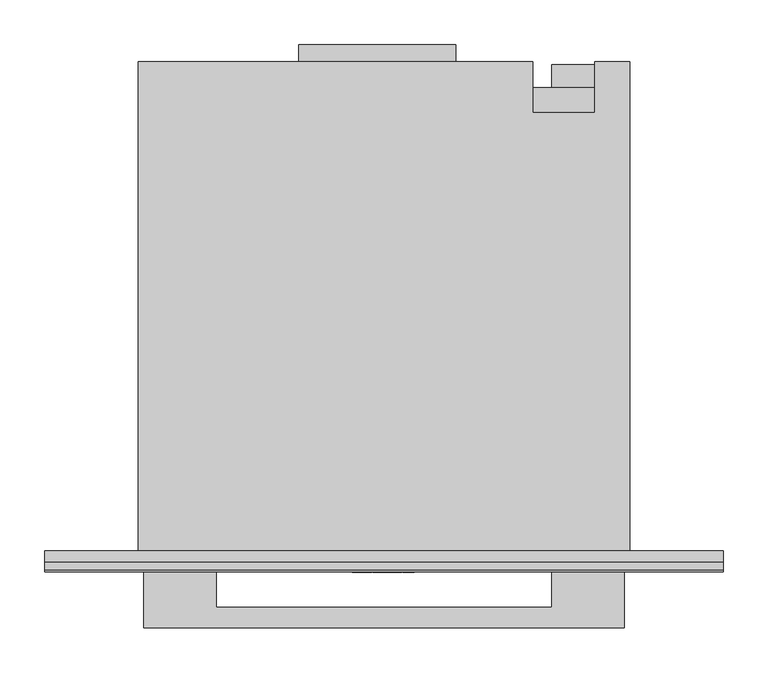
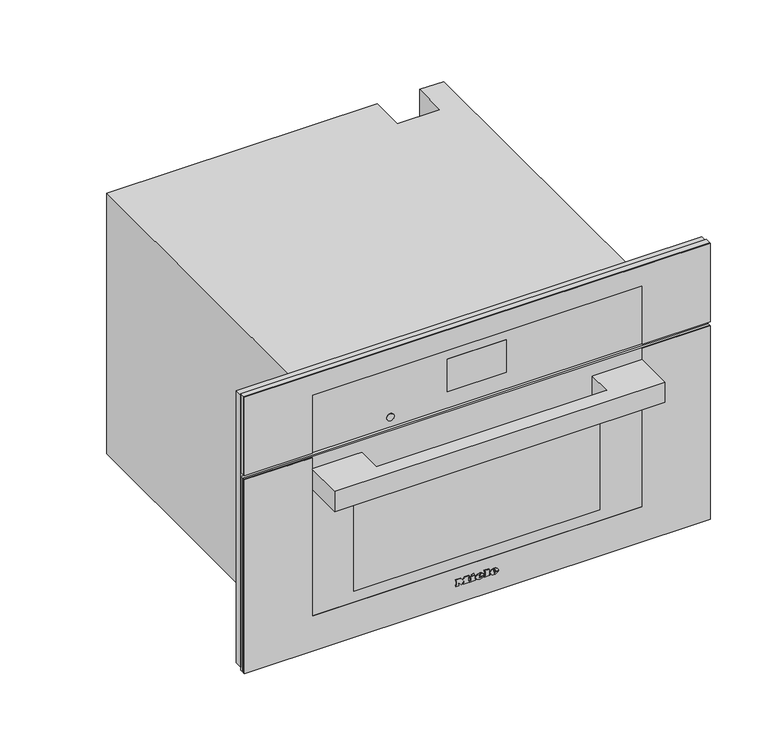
"""IFC4 building model written with IfcOpenShell, lengths in millimetres: proxy geometry, 11875790_USA_DGC7570_EDST-CLST : 23757042_USA_11875790_DGC7570_EDST-CLST."""

import ifcopenshell
import ifcopenshell.guid

model = None  # the IFC model being written
_history = None  # IfcOwnerHistory: only IFC2X3 demands one
_inside = {}  # id of a spatial element -> (the spatial element, [elements in it])
_under = {}  # id of a project, library or spatial element -> (it, [spatial elements below it])
_declared = {}  # id of a project -> (the project, [libraries it declares])
_typed = {}  # id of a type object -> (the type object, [elements of that type])
_made_of = {}  # id of a material, layer set ... -> (it, [elements and type objects made of it])


def new_model(schema):
    """Start an empty IFC model of exactly this schema.

    Asked for "IFC4X3", IfcOpenShell would pick the latest addendum, in which some entities
    have other attributes; the version numbers below select the first issue.
    IFC2X3 requires an IfcOwnerHistory on every rooted entity: one is made here for all.
    """
    global model, _history
    if schema == "IFC4X3":
        model = ifcopenshell.file(schema_version=(4, 3, 0, 0))
    else:
        model = ifcopenshell.file(schema=schema)
    _inside.clear()
    _under.clear()
    _declared.clear()
    _typed.clear()
    _made_of.clear()
    _history = None
    if model.schema == "IFC2X3":
        org = make("IfcOrganization", Name="unknown")
        user = make(
            "IfcPersonAndOrganization",
            ThePerson=make("IfcPerson", FamilyName="unknown"),
            TheOrganization=org,
        )
        app = make(
            "IfcApplication",
            ApplicationDeveloper=org,
            Version="unknown",
            ApplicationFullName="unknown",
            ApplicationIdentifier="unknown",
        )
        _history = make(
            "IfcOwnerHistory",
            OwningUser=user,
            OwningApplication=app,
            ChangeAction="ADDED",
            CreationDate=0,
        )
    return model


def make(cls, **values):
    """One entity of the class cls with the attributes given. An attribute that is None is left unset."""
    return model.create_entity(
        cls, **{name: value for name, value in values.items() if value is not None}
    )


def rooted(cls, **values):
    """An entity with a GlobalId (a new one), such as an element, a storey or a relation."""
    return make(cls, GlobalId=ifcopenshell.guid.new(), OwnerHistory=_history, **values)


def si_unit(unit_type, name, prefix=None):
    """IfcSIUnit, for example si_unit("LENGTHUNIT", "METRE", prefix="MILLI")."""
    return make("IfcSIUnit", UnitType=unit_type, Prefix=prefix, Name=name)


def assignment(units):
    """IfcUnitAssignment: the units of a project."""
    return None if units is None else make("IfcUnitAssignment", Units=units)


def point(xyz):
    """IfcCartesianPoint."""
    return None if xyz is None else make("IfcCartesianPoint", Coordinates=xyz)


def direction(xyz):
    """IfcDirection."""
    return None if xyz is None else make("IfcDirection", DirectionRatios=xyz)


def frame(location, z_axis=None, x_axis=None):
    """IfcAxis2Placement3D, a coordinate frame: its origin and axes. An axis left out is left unset."""
    return make(
        "IfcAxis2Placement3D",
        Location=point(location),
        Axis=direction(z_axis),
        RefDirection=direction(x_axis),
    )


def frame_2d(location, x_axis=None):
    """IfcAxis2Placement2D, a coordinate frame in the plane: its origin and x axis."""
    return make(
        "IfcAxis2Placement2D", Location=point(location), RefDirection=direction(x_axis)
    )


def origin():
    """The frame at (0, 0, 0) with its axes left unset."""
    return frame((0.0, 0.0, 0.0))


def place(relative_to, where):
    """IfcLocalPlacement: puts the frame where relative to a parent placement (None: the world)."""
    return make(
        "IfcLocalPlacement", PlacementRelTo=relative_to, RelativePlacement=where
    )


def context(
    kind, dimensions, precision=None, world=None, true_north=None, identifier=None
):
    """IfcGeometricRepresentationContext, for example the 3D "Model" context."""
    return make(
        "IfcGeometricRepresentationContext",
        ContextIdentifier=identifier,
        ContextType=kind,
        CoordinateSpaceDimension=dimensions,
        Precision=precision,
        WorldCoordinateSystem=world,
        TrueNorth=true_north,
    )


def project(units=None, contexts=None):
    """IfcProject with its units and contexts."""
    return rooted(
        "IfcProject",
        Name="project",
        RepresentationContexts=contexts,
        UnitsInContext=assignment(units),
    )


def spatial(cls, under=None, at=None, **own):
    """A site, building, storey or space (cls), placed at a placement, below another one or the project."""
    s = rooted(cls, ObjectPlacement=at, **own)
    if under is not None:
        _under.setdefault(under.id(), (under, []))[1].append(s)
    return s


def polyline(points):
    """IfcPolyline through the points."""
    return make("IfcPolyline", Points=[point(p) for p in points])


def circle_curve(where, radius):
    """IfcCircle in the frame where."""
    return make("IfcCircle", Position=where, Radius=radius)


def ellipse_curve(where, semi_axis1, semi_axis2):
    """IfcEllipse in the frame where."""
    return make(
        "IfcEllipse", Position=where, SemiAxis1=semi_axis1, SemiAxis2=semi_axis2
    )


def trimmed(basis, trim1, trim2, sense, master):
    """IfcTrimmedCurve: the piece of a basis curve between two trims."""
    return make(
        "IfcTrimmedCurve",
        BasisCurve=basis,
        Trim1=trim1,
        Trim2=trim2,
        SenseAgreement=sense,
        MasterRepresentation=master,
    )


def segment(curve, same_sense, transition):
    """IfcCompositeCurveSegment."""
    return make(
        "IfcCompositeCurveSegment",
        Transition=transition,
        SameSense=same_sense,
        ParentCurve=curve,
    )


def composite_curve(segments, self_intersect=None):
    """IfcCompositeCurve: segments joined end to end."""
    return make("IfcCompositeCurve", Segments=segments, SelfIntersect=self_intersect)


def outline(outer, holes=None, kind="AREA"):
    """IfcArbitraryClosedProfileDef: a profile drawn as a closed curve; with holes, ...WithVoids."""
    if holes is None:
        return make("IfcArbitraryClosedProfileDef", ProfileType=kind, OuterCurve=outer)
    return make(
        "IfcArbitraryProfileDefWithVoids",
        ProfileType=kind,
        OuterCurve=outer,
        InnerCurves=holes,
    )


def extrude(swept, where, along, depth):
    """IfcExtrudedAreaSolid: the profile swept, set in the frame where, extruded along a direction by depth."""
    return make(
        "IfcExtrudedAreaSolid",
        SweptArea=swept,
        Position=where,
        ExtrudedDirection=direction(along),
        Depth=depth,
    )


def faces_of(points, faces, orient=None, outer=None):
    """IfcFace entities. A face is a list of loops; a loop is a list of indices into points, from 0.

    orient and outer hold one flag for each loop. By default every Orientation is true, the
    first loop of a face is its IfcFaceOuterBound and the others are IfcFaceBound.
    """
    made = []
    for i, loops in enumerate(faces):
        bounds = []
        for j, loop in enumerate(loops):
            is_outer = j == 0 if outer is None else outer[i][j]
            bounds.append(
                make(
                    "IfcFaceOuterBound" if is_outer else "IfcFaceBound",
                    Bound=make("IfcPolyLoop", Polygon=[points[k] for k in loop]),
                    Orientation=True if orient is None else orient[i][j],
                )
            )
        made.append(make("IfcFace", Bounds=bounds))
    return made


def faceted_brep(points, faces, orient=None, outer=None, voids=None):
    """IfcFacetedBrep: a solid bounded by flat faces; with voids (closed shells), ...WithVoids."""
    shared = [point(p) for p in points]
    hull = make("IfcClosedShell", CfsFaces=faces_of(shared, faces, orient, outer))
    if voids is None:
        return make("IfcFacetedBrep", Outer=hull)
    return make(
        "IfcFacetedBrepWithVoids",
        Outer=hull,
        Voids=[
            make(cls, CfsFaces=faces_of(shared, fs, o, b)) for cls, fs, o, b in voids
        ],
    )


def shape(context_of_items, identifier, shape_type, items):
    """IfcShapeRepresentation: the items that make up one representation, for example the "Body"."""
    return make(
        "IfcShapeRepresentation",
        ContextOfItems=context_of_items,
        RepresentationIdentifier=identifier,
        RepresentationType=shape_type,
        Items=items,
    )


def source(mapping_origin, context_of_items, identifier, shape_type, items):
    """IfcRepresentationMap: a shape defined once, which mapped items show again and again."""
    return make(
        "IfcRepresentationMap",
        MappingOrigin=mapping_origin,
        MappedRepresentation=shape(context_of_items, identifier, shape_type, items),
    )


def transform(
    local_origin,
    x_axis=None,
    y_axis=None,
    z_axis=None,
    scale=None,
    scale2=None,
    scale3=None,
    uniform=True,
):
    """IfcCartesianTransformationOperator3D, or its non-uniform kind. x_axis, y_axis, z_axis: its Axis1, 2, 3."""
    if uniform:
        return make(
            "IfcCartesianTransformationOperator3D",
            Axis1=direction(x_axis),
            Axis2=direction(y_axis),
            LocalOrigin=point(local_origin),
            Scale=scale,
            Axis3=direction(z_axis),
        )
    return make(
        "IfcCartesianTransformationOperator3DnonUniform",
        Axis1=direction(x_axis),
        Axis2=direction(y_axis),
        LocalOrigin=point(local_origin),
        Scale=scale,
        Axis3=direction(z_axis),
        Scale2=scale2,
        Scale3=scale3,
    )


def mapped(mapping_source, mapping_target):
    """IfcMappedItem: shows the shape of a source again, moved by a transform."""
    return make(
        "IfcMappedItem", MappingSource=mapping_source, MappingTarget=mapping_target
    )


def made_of(thing, what):
    """Note that an element or type object is made of a material, layer set ...; save() writes the relation."""
    if what is not None:
        _made_of.setdefault(what.id(), (what, []))[1].append(thing)
    return thing


def element(
    cls,
    number,
    at=None,
    inside=None,
    cuts=None,
    type_object=None,
    material=None,
    context=None,
    identifier="Body",
    shape_type=None,
    held_by="IfcProductDefinitionShape",
    body=None,
    shapes=None,
    **own,
):
    """One element of the class cls, such as IfcWall. Its Tag is "e" and its number.

    at: its placement. inside: the storey or other place that contains it. cuts: it is an
    opening in that element (IfcRelVoidsElement). A single representation is given by context,
    identifier, shape_type and body (its items); several are given by shapes. held_by: the class
    of the entity that holds the representations. save() writes the other relations.
    """
    e = rooted(cls, Tag="e%d" % number, ObjectPlacement=at, **own)
    if body is not None:
        shapes = [shape(context, identifier, shape_type, body)]
    if shapes is not None:
        e.Representation = make(held_by, Representations=shapes)
    if inside is not None:
        _inside.setdefault(inside.id(), (inside, []))[1].append(e)
    if cuts is not None:
        rooted(
            "IfcRelVoidsElement", RelatingBuildingElement=cuts, RelatedOpeningElement=e
        )
    if type_object is not None:
        _typed.setdefault(type_object.id(), (type_object, []))[1].append(e)
    return made_of(e, material)


def aggregate(whole, parts):
    """IfcRelAggregates: a whole, such as a stair, and the parts it consists of."""
    return rooted("IfcRelAggregates", RelatingObject=whole, RelatedObjects=parts)


def save(model, path):
    """Write the relations noted so far, then the file.

    IfcRelAggregates (storeys below a building ...), IfcRelContainedInSpatialStructure (elements
    in a storey), IfcRelDefinesByType, IfcRelAssociatesMaterial and IfcRelDeclares: one each for
    every whole, place, type object, material and project.
    """
    for whole, parts in _under.values():
        aggregate(whole, parts)
    for where, things in _inside.values():
        rooted(
            "IfcRelContainedInSpatialStructure",
            RelatedElements=things,
            RelatingStructure=where,
        )
    for kind, things in _typed.values():
        rooted("IfcRelDefinesByType", RelatedObjects=things, RelatingType=kind)
    for what, things in _made_of.values():
        rooted("IfcRelAssociatesMaterial", RelatedObjects=things, RelatingMaterial=what)
    for by, libraries in _declared.values():
        rooted("IfcRelDeclares", RelatingContext=by, RelatedDefinitions=libraries)
    model.write(path)


def plane_surface(at):
    """IfcPlane: the flat surface through the origin of the frame at, square to its z axis."""
    return make("IfcPlane", Position=at)


def cylinder_surface(at, radius):
    """IfcCylindricalSurface: all points at the distance radius from the z axis of the frame at."""
    return make("IfcCylindricalSurface", Position=at, Radius=radius)


def revolved_surface(curve, axis_point, axis_direction):
    """IfcSurfaceOfRevolution: the curve turned about the line through axis_point along axis_direction."""
    return make(
        "IfcSurfaceOfRevolution",
        SweptCurve=make("IfcArbitraryOpenProfileDef", ProfileType="CURVE", Curve=curve),
        AxisPosition=make("IfcAxis1Placement", Location=point(axis_point), Axis=direction(axis_direction)),
    )


def extruded_surface(curve, direction_of_extrusion, depth):
    """IfcSurfaceOfLinearExtrusion: the curve pushed along a direction by depth."""
    return make(
        "IfcSurfaceOfLinearExtrusion",
        SweptCurve=make("IfcArbitraryOpenProfileDef", ProfileType="CURVE", Curve=curve),
        ExtrudedDirection=direction(direction_of_extrusion),
        Depth=depth,
    )


def advanced_brep(points, edges, surfaces, faces):
    """IfcAdvancedBrep: a solid bounded by faces that lie on surfaces and meet in shared edges.

    An edge is (start, end): straight between two places in points (the first is 0);
    or (start, end, curve); or (start, end, curve, False) where it runs against its curve.
    A face is (place in surfaces, loops), or (place, loops, False) where it looks against
    its surface's normal. A loop lists edges by number (the first is 1), with a minus sign
    where the edge is run from its end to its start. The first loop is the outer one.
    """
    corners = [point(p) for p in points]
    vertices = [make("IfcVertexPoint", VertexGeometry=c) for c in corners]
    made = []
    for start, end, *more in edges:
        made.append(
            make(
                "IfcEdgeCurve",
                EdgeStart=vertices[start],
                EdgeEnd=vertices[end],
                EdgeGeometry=more[0] if more else make("IfcPolyline", Points=[corners[start], corners[end]]),
                SameSense=more[1] if len(more) > 1 else True,
            )
        )
    hull = []
    for where, loops, *sense in faces:
        bounds = []
        for j, loop in enumerate(loops):
            ring = [make("IfcOrientedEdge", EdgeElement=made[abs(k) - 1], Orientation=k > 0) for k in loop]
            bounds.append(
                make(
                    "IfcFaceOuterBound" if j == 0 else "IfcFaceBound",
                    Bound=make("IfcEdgeLoop", EdgeList=ring),
                    Orientation=True,
                )
            )
        hull.append(make("IfcAdvancedFace", Bounds=bounds, FaceSurface=surfaces[where], SameSense=sense[0] if sense else True))
    return make("IfcAdvancedBrep", Outer=make("IfcClosedShell", CfsFaces=hull))


def specialty_equipment_b7d9d9a2(model_context):
    return source(origin(), model_context, "Body", "SolidModel", [
        faceted_brep([(378.5, -13.0, 476.0), (-378.5, -13.0, 476.0), (-378.5, -13.0, 9.0), (-272.5, -13.0, 9.0), (-272.5, -13.0, 344.0), (272.5, -13.0, 344.0), (272.5, -13.0, 9.0), (378.5, -13.0, 9.0), (378.5, 0.0, 476.0), (378.5, 0.0, 9.0), (-378.5, 0.0, 9.0), (-378.5, 0.0, 476.0), (231.0, 0.0, 58.0), (231.0, 0.0, 286.0), (-231.0, 0.0, 286.0), (-231.0, 0.0, 58.0), (272.5, -5.0, 9.0), (-272.5, -5.0, 9.0), (-272.5, -5.0, 344.0), (272.5, -5.0, 344.0), (231.0, -5.0, 286.0), (231.0, -5.0, 58.0), (-231.0, -5.0, 58.0), (-231.0, -5.0, 286.0)], [[[0, 1, 2, 3, 4, 5, 6, 7]], [[8, 9, 10, 11], [12, 13, 14, 15]], [[1, 0, 8, 11]], [[2, 1, 11, 10]], [[10, 9, 7, 6, 16, 17, 3, 2]], [[0, 7, 9, 8]], [[18, 19, 5, 4]], [[18, 4, 3, 17]], [[5, 19, 16, 6]], [[19, 18, 17, 16], [20, 21, 22, 23]], [[20, 13, 12, 21]], [[21, 12, 15, 22]], [[22, 15, 14, 23]], [[13, 20, 23, 14]]]),
        extrude(outline(polyline([(-95.0, 565.0), (80.0, 565.0), (80.0, 546.0), (-95.0, 546.0), (-95.0, 565.0)])), frame((0.0, 0.0, 260.0), z_axis=(0.0, 0.0, 1.0), x_axis=(1.0, 0.0, 0.0)), (0.0, 0.0, 1.0), 1.0),
        extrude(outline(polyline([(224.8383288, 537.0), (231.1236409, 537.0), (231.1236409, 526.9492425), (229.8571792, 526.9492425), (229.8571792, 535.7409796), (224.8383288, 535.7409796), (224.8383288, 537.0)])), frame((0.0, 0.0, 132.0), z_axis=(0.0, 0.0, 1.0), x_axis=(1.0, 0.0, 0.0)), (0.0, 0.0, 1.0), 1.0),
        extrude(outline(polyline([(233.0, 537.0), (240.3797826, 537.0), (240.3797826, 526.9503529), (233.15422, 526.9503529), (233.15422, 528.220938), (239.1355215, 528.220938), (239.1355215, 531.1975645), (233.4863097, 531.1975645), (233.4863097, 532.449242), (239.1355215, 532.449242), (239.1355215, 535.7448633), (233.0, 535.7448633), (233.0, 537.0)])), frame((0.0, 0.0, 132.0), z_axis=(0.0, 0.0, 1.0), x_axis=(1.0, 0.0, 0.0)), (0.0, 0.0, 1.0), 1.0),
        extrude(outline(composite_curve([segment(trimmed(circle_curve(frame_2d((233.0, 532.0)), 7.5), [point((225.5, 532.0))], [point((240.5, 532.0))], False, "CARTESIAN"), True, "CONTINUOUS"), segment(trimmed(circle_curve(frame_2d((233.0, 532.0)), 7.5), [point((240.5, 532.0))], [point((225.5, 532.0))], False, "CARTESIAN"), True, "CONTINUOUS")], self_intersect=False)), frame((0.0, 0.0, 133.0), z_axis=(0.0, 0.0, 1.0), x_axis=(1.0, 0.0, 0.0)), (0.0, 0.0, 1.0), 30.0),
        extrude(outline(polyline([(266.0, 517.0), (187.0, 517.0), (187.0, 543.0), (266.0, 543.0), (266.0, 517.0)])), frame((0.0, 0.0, 163.0), z_axis=(0.0, 0.0, 1.0), x_axis=(1.0, 0.0, 0.0)), (0.0, 0.0, 1.0), 111.0),
        faceted_brep([(-274.0, 546.0, 0.0), (-274.0, 546.0, 448.0), (166.0, 546.0, 448.0), (166.0, 546.0, 0.0), (235.0, 546.0, 448.0), (274.0, 546.0, 448.0), (274.0, 546.0, 338.0), (235.0, 546.0, 338.0), (274.0, 0.0, 448.0), (-274.0, 0.0, 448.0), (-274.0, 0.0, 0.0), (274.0, 0.0, 0.0), (231.0, 0.0, 286.0), (231.0, 0.0, 58.0), (-231.0, 0.0, 58.0), (-231.0, 0.0, 286.0), (235.0, 489.0, 448.0), (166.0, 489.0, 448.0), (166.0, 517.0, 0.0), (274.0, 517.0, 0.0), (274.0, 517.0, 338.0), (231.0, 411.0, 286.0), (-231.0, 411.0, 286.0), (-231.0, 411.0, 58.0), (231.0, 411.0, 58.0), (235.0, 489.0, 337.0), (166.0, 489.0, 337.0), (166.0, 517.0, 337.0), (235.0, 517.0, 337.0), (235.0, 517.0, 338.0)], [[[0, 1, 2, 3]], [[4, 5, 6, 7]], [[8, 9, 10, 11], [12, 13, 14, 15]], [[9, 8, 5, 4, 16, 17, 2, 1]], [[1, 0, 10, 9]], [[11, 10, 0, 3, 18, 19]], [[8, 11, 19, 20, 6, 5]], [[21, 22, 23, 24]], [[21, 24, 13, 12]], [[24, 23, 14, 13]], [[23, 22, 15, 14]], [[22, 21, 12, 15]], [[16, 25, 26, 17]], [[17, 26, 27, 18, 3, 2]], [[26, 25, 28, 27]], [[25, 16, 4, 7, 29, 28]], [[29, 20, 19, 18, 27, 28]], [[20, 29, 7, 6]]]),
        advanced_brep(
        [(26.2998, -24.3, 36.7018), (26.2998, -24.3, 37.8532), (33.9264, -24.3, 37.8532), (20.6568, -24.3, 37.8532), (23.7918, -24.3, 34.0), (33.7326, -24.3, 36.7018), (30.2898, -24.3, 36.7018), (27.5766, -24.3, 35.425), (26.2998, -24.3, 39.3124), (26.2998, -24.3, 40.555), (28.2492, -24.3, 40.555), (28.2492, -24.3, 39.3124), (26.2998, -23.3, 36.7018), (27.5766, -23.3, 35.425), (30.2898, -23.3, 36.7018), (33.7326, -23.3, 36.7018), (23.7918, -23.3, 34.0), (20.6568, -23.3, 37.8532), (33.9264, -23.3, 37.8532), (26.2998, -23.3, 37.8532), (26.2998, -23.3, 39.3124), (28.2492, -23.3, 39.3124), (28.2492, -23.3, 40.555), (26.2998, -23.3, 40.555)],
        [
            (0, 1),
            (1, 2),
            (2, 3, ellipse_curve(frame((27.2916, -24.3, 37.8532), z_axis=(0.0, -1.0, 0.0), x_axis=(-1.0, 0.0, 0.0)), 6.6348, 5.4834)),
            (3, 4, circle_curve(frame((25.0686622, -24.3, 38.2408), z_axis=(0.0, -1.0, 0.0), x_axis=(0.0, 0.0, -1.0)), 4.4288556)),
            (4, 5, circle_curve(frame((27.1587808, -24.3, 41.2504), z_axis=(0.0, -1.0, 0.0), x_axis=(0.0, 0.0, -1.0)), 7.9940516)),
            (5, 6),
            (6, 7, circle_curve(frame((28.1338588, -24.3, 37.762), z_axis=(0.0, 1.0, 0.0), x_axis=(0.0, 0.0, -1.0)), 2.4025208)),
            (7, 0, circle_curve(frame((27.5766, -24.3, 36.7018), z_axis=(0.0, 1.0, 0.0), x_axis=(0.0, 0.0, -1.0)), 1.2768)),
            (8, 9),
            (9, 10, circle_curve(frame((27.2745, -24.3, 40.555), z_axis=(0.0, 1.0, 0.0), x_axis=(0.0, 0.0, -1.0)), 0.9747)),
            (10, 11),
            (11, 8),
            (12, 13, circle_curve(frame((27.5766, -23.3, 36.7018), z_axis=(0.0, -1.0, 0.0), x_axis=(0.0, 0.0, -1.0)), 1.2768)),
            (13, 14, circle_curve(frame((28.1338588, -23.3, 37.762), z_axis=(0.0, -1.0, 0.0), x_axis=(0.0, 0.0, -1.0)), 2.4025208)),
            (14, 15),
            (15, 16, circle_curve(frame((27.1587808, -23.3, 41.2504), z_axis=(0.0, 1.0, 0.0), x_axis=(0.0, 0.0, -1.0)), 7.9940516)),
            (16, 17, circle_curve(frame((25.0686622, -23.3, 38.2408), z_axis=(0.0, 1.0, 0.0), x_axis=(0.0, 0.0, -1.0)), 4.4288556)),
            (17, 18, ellipse_curve(frame((27.2916, -23.3, 37.8532), z_axis=(0.0, 1.0, 0.0), x_axis=(-1.0, 0.0, 0.0)), 6.6348, 5.4834)),
            (18, 19),
            (19, 12),
            (20, 21),
            (21, 22),
            (22, 23, circle_curve(frame((27.2745, -23.3, 40.555), z_axis=(0.0, -1.0, 0.0), x_axis=(0.0, 0.0, -1.0)), 0.9747)),
            (23, 20),
            (0, 12),
            (19, 1),
            (18, 2),
            (5, 15),
            (14, 6),
            (17, 3),
            (13, 7),
            (16, 4),
            (8, 20),
            (23, 9),
            (22, 10),
            (21, 11),
        ],
        [
            plane_surface(frame((26.2998, -24.3, 37.8532), z_axis=(0.0, -1.0, 0.0), x_axis=(0.0, 0.0, 1.0))),
            plane_surface(frame((26.2998, -23.3, 37.8532), z_axis=(0.0, 1.0, 0.0), x_axis=(0.0, 0.0, -1.0))),
            plane_surface(frame((26.2998, -24.3, 36.7018), z_axis=(1.0, 0.0, 0.0), x_axis=(0.0, 1.0, 0.0))),
            plane_surface(frame((26.2998, -24.3, 37.8532), z_axis=(0.0, 0.0, -1.0), x_axis=(0.0, 1.0, 0.0))),
            plane_surface(frame((33.7326, -24.3, 36.7018), z_axis=(0.0, 0.0, 1.0), x_axis=(0.0, 1.0, 0.0))),
            extruded_surface(trimmed(ellipse_curve(frame((27.2916, -22.3, 37.8532), z_axis=(0.0, -1.0, 0.0), x_axis=(-1.0, 0.0, 0.0)), 6.6348, 5.4834), [point((33.9264, -22.3, 37.8532))], [point((20.6568, -22.3, 37.8532))], True, "CARTESIAN"), (0.0, -1.0, 0.0), 1.0),
            revolved_surface(polyline([(28.1338588, -23.3, 35.3594792), (28.1338588, -24.3, 35.3594792)]), (28.1338588, -23.3, 37.762), (0.0, 1.0, 0.0)),
            revolved_surface(polyline([(27.5766, -23.3, 35.425), (27.5766, -24.3, 35.425)]), (27.5766, -23.3, 36.7018), (0.0, 1.0, 0.0)),
            cylinder_surface(frame((25.0686622, -23.3, 38.2408), z_axis=(0.0, -1.0, 0.0), x_axis=(0.0, 0.0, -1.0)), 4.4288556),
            cylinder_surface(frame((27.1587808, -23.3, 41.2504), z_axis=(0.0, -1.0, 0.0), x_axis=(0.0, 0.0, -1.0)), 7.9940516),
            plane_surface(frame((26.2998, -24.3, 39.3124), z_axis=(1.0, 0.0, 0.0), x_axis=(0.0, 1.0, 0.0))),
            revolved_surface(polyline([(27.2745, -23.3, 39.5803), (27.2745, -24.3, 39.5803)]), (27.2745, -23.3, 40.555), (0.0, 1.0, 0.0)),
            plane_surface(frame((28.2492, -24.3, 40.555), z_axis=(-1.0, 0.0, 0.0), x_axis=(0.0, 1.0, 0.0))),
            plane_surface(frame((28.2492, -24.3, 39.3124), z_axis=(0.0, 0.0, 1.0), x_axis=(0.0, 1.0, 0.0))),
        ],
        [
            (0, [[1, 2, 3, 4, 5, 6, 7, 8], [9, 10, 11, 12]]),
            (1, [[13, 14, 15, 16, 17, 18, 19, 20], [21, 22, 23, 24]]),
            (2, [[-1, 25, -20, 26]]),
            (3, [[-2, -26, -19, 27]]),
            (4, [[-6, 28, -15, 29]]),
            (5, [[-3, -27, -18, 30]]),
            (6, [[-7, -29, -14, 31]]),
            (7, [[-8, -31, -13, -25]]),
            (8, [[-4, -30, -17, 32]]),
            (9, [[-5, -32, -16, -28]]),
            (10, [[-9, 33, -24, 34]]),
            (11, [[-10, -34, -23, 35]]),
            (12, [[-11, -35, -22, 36]]),
            (13, [[-12, -36, -21, -33]]),
        ],
    ),
        advanced_brep(
        [(2.508, -24.3, 36.7018), (2.508, -24.3, 37.8532), (10.1346, -24.3, 37.8532), (-3.135, -24.3, 37.8532), (0.0, -24.3, 34.0), (9.9408, -24.3, 36.7018), (6.498, -24.3, 36.7018), (3.7848, -24.3, 35.425), (2.508, -24.3, 39.3124), (2.508, -24.3, 40.555), (4.4574, -24.3, 40.555), (4.4574, -24.3, 39.3124), (2.508, -23.3, 36.7018), (3.7848, -23.3, 35.425), (6.498, -23.3, 36.7018), (9.9408, -23.3, 36.7018), (0.0, -23.3, 34.0), (-3.135, -23.3, 37.8532), (10.1346, -23.3, 37.8532), (2.508, -23.3, 37.8532), (2.508, -23.3, 39.3124), (4.4574, -23.3, 39.3124), (4.4574, -23.3, 40.555), (2.508, -23.3, 40.555)],
        [
            (0, 1),
            (1, 2),
            (2, 3, ellipse_curve(frame((3.4998, -24.3, 37.8532), z_axis=(0.0, -1.0, 0.0), x_axis=(-1.0, 0.0, 0.0)), 6.6348, 5.4834)),
            (3, 4, circle_curve(frame((1.2768622, -24.3, 38.2408), z_axis=(0.0, -1.0, 0.0), x_axis=(0.0, 0.0, -1.0)), 4.4288556)),
            (4, 5, circle_curve(frame((3.3669808, -24.3, 41.2504), z_axis=(0.0, -1.0, 0.0), x_axis=(0.0, 0.0, -1.0)), 7.9940516)),
            (5, 6),
            (6, 7, circle_curve(frame((4.3420588, -24.3, 37.762), z_axis=(0.0, 1.0, 0.0), x_axis=(0.0, 0.0, -1.0)), 2.4025208)),
            (7, 0, circle_curve(frame((3.7848, -24.3, 36.7018), z_axis=(0.0, 1.0, 0.0), x_axis=(0.0, 0.0, -1.0)), 1.2768)),
            (8, 9),
            (9, 10, circle_curve(frame((3.4827, -24.3, 40.555), z_axis=(0.0, 1.0, 0.0), x_axis=(0.0, 0.0, -1.0)), 0.9747)),
            (10, 11),
            (11, 8),
            (12, 13, circle_curve(frame((3.7848, -23.3, 36.7018), z_axis=(0.0, -1.0, 0.0), x_axis=(0.0, 0.0, -1.0)), 1.2768)),
            (13, 14, circle_curve(frame((4.3420588, -23.3, 37.762), z_axis=(0.0, -1.0, 0.0), x_axis=(0.0, 0.0, -1.0)), 2.4025208)),
            (14, 15),
            (15, 16, circle_curve(frame((3.3669808, -23.3, 41.2504), z_axis=(0.0, 1.0, 0.0), x_axis=(0.0, 0.0, -1.0)), 7.9940516)),
            (16, 17, circle_curve(frame((1.2768622, -23.3, 38.2408), z_axis=(0.0, 1.0, 0.0), x_axis=(0.0, 0.0, -1.0)), 4.4288556)),
            (17, 18, ellipse_curve(frame((3.4998, -23.3, 37.8532), z_axis=(0.0, 1.0, 0.0), x_axis=(-1.0, 0.0, 0.0)), 6.6348, 5.4834)),
            (18, 19),
            (19, 12),
            (20, 21),
            (21, 22),
            (22, 23, circle_curve(frame((3.4827, -23.3, 40.555), z_axis=(0.0, -1.0, 0.0), x_axis=(0.0, 0.0, -1.0)), 0.9747)),
            (23, 20),
            (0, 12),
            (19, 1),
            (18, 2),
            (5, 15),
            (14, 6),
            (17, 3),
            (13, 7),
            (16, 4),
            (8, 20),
            (23, 9),
            (22, 10),
            (21, 11),
        ],
        [
            plane_surface(frame((2.508, -24.3, 37.8532), z_axis=(0.0, -1.0, 0.0), x_axis=(0.0, 0.0, 1.0))),
            plane_surface(frame((2.508, -23.3, 37.8532), z_axis=(0.0, 1.0, 0.0), x_axis=(0.0, 0.0, -1.0))),
            plane_surface(frame((2.508, -24.3, 36.7018), z_axis=(1.0, 0.0, 0.0), x_axis=(0.0, 1.0, 0.0))),
            plane_surface(frame((2.508, -24.3, 37.8532), z_axis=(0.0, 0.0, -1.0), x_axis=(0.0, 1.0, 0.0))),
            plane_surface(frame((9.9408, -24.3, 36.7018), z_axis=(0.0, 0.0, 1.0), x_axis=(0.0, 1.0, 0.0))),
            extruded_surface(trimmed(ellipse_curve(frame((3.4998, -22.3, 37.8532), z_axis=(0.0, -1.0, 0.0), x_axis=(-1.0, 0.0, 0.0)), 6.6348, 5.4834), [point((10.1346, -22.3, 37.8532))], [point((-3.135, -22.3, 37.8532))], True, "CARTESIAN"), (0.0, -1.0, 0.0), 1.0),
            revolved_surface(polyline([(4.3420588, -23.3, 35.3594792), (4.3420588, -24.3, 35.3594792)]), (4.3420588, -23.3, 37.762), (0.0, 1.0, 0.0)),
            revolved_surface(polyline([(3.7848, -23.3, 35.425), (3.7848, -24.3, 35.425)]), (3.7848, -23.3, 36.7018), (0.0, 1.0, 0.0)),
            cylinder_surface(frame((1.2768622, -23.3, 38.2408), z_axis=(0.0, -1.0, 0.0), x_axis=(0.0, 0.0, -1.0)), 4.4288556),
            cylinder_surface(frame((3.3669808, -23.3, 41.2504), z_axis=(0.0, -1.0, 0.0), x_axis=(0.0, 0.0, -1.0)), 7.9940516),
            plane_surface(frame((2.508, -24.3, 39.3124), z_axis=(1.0, 0.0, 0.0), x_axis=(0.0, 1.0, 0.0))),
            revolved_surface(polyline([(3.4827, -23.3, 39.5803), (3.4827, -24.3, 39.5803)]), (3.4827, -23.3, 40.555), (0.0, 1.0, 0.0)),
            plane_surface(frame((4.4574, -24.3, 40.555), z_axis=(-1.0, 0.0, 0.0), x_axis=(0.0, 1.0, 0.0))),
            plane_surface(frame((4.4574, -24.3, 39.3124), z_axis=(0.0, 0.0, 1.0), x_axis=(0.0, 1.0, 0.0))),
        ],
        [
            (0, [[1, 2, 3, 4, 5, 6, 7, 8], [9, 10, 11, 12]]),
            (1, [[13, 14, 15, 16, 17, 18, 19, 20], [21, 22, 23, 24]]),
            (2, [[-1, 25, -20, 26]]),
            (3, [[-2, -26, -19, 27]]),
            (4, [[-6, 28, -15, 29]]),
            (5, [[-3, -27, -18, 30]]),
            (6, [[-7, -29, -14, 31]]),
            (7, [[-8, -31, -13, -25]]),
            (8, [[-4, -30, -17, 32]]),
            (9, [[-5, -32, -16, -28]]),
            (10, [[-9, 33, -24, 34]]),
            (11, [[-10, -34, -23, 35]]),
            (12, [[-11, -35, -22, 36]]),
            (13, [[-12, -36, -21, -33]]),
        ],
    ),
        extrude(outline(polyline([(44.7274, -9.9522), (42.8806, -9.0858), (44.6818, -5.2212), (46.5286, -6.0762), (44.7274, -9.9522)])), frame((0.0, -24.3, 0.0), z_axis=(0.0, 1.0, 0.0), x_axis=(0.0, 0.0, 1.0)), (0.0, 0.0, 1.0), 1.0),
        extrude(outline(polyline([(42.6298, -12.768), (40.5892, -12.768), (40.5892, -11.4114), (35.9152, -11.4114), (35.9152, -12.768), (34.0, -12.768), (34.0, -3.7734), (35.9152, -3.7734), (35.9152, -5.0958), (42.6298, -5.0958), (42.6298, -12.768)])), frame((0.0, -24.3, 0.0), z_axis=(0.0, 1.0, 0.0), x_axis=(0.0, 0.0, 1.0)), (0.0, 0.0, 1.0), 1.0),
        extrude(outline(polyline([(43.5418, 10.773), (43.5418, 12.141), (35.9152, 12.141), (35.9152, 10.773), (34.0, 10.773), (34.0, 20.0184), (35.9152, 20.0184), (35.9152, 18.6162), (45.4, 18.6162), (45.4, 10.773), (43.5418, 10.773)])), frame((0.0, -24.3, 0.0), z_axis=(0.0, 1.0, 0.0), x_axis=(0.0, 0.0, 1.0)), (0.0, 0.0, 1.0), 1.0),
        extrude(outline(polyline([(43.5418, -35.4882), (43.5418, -34.1088), (35.9152, -34.1088), (35.9152, -35.4882), (34.0, -35.4882), (34.0, -30.4722), (35.9152, -30.4722), (35.9152, -31.8402), (40.7429247, -31.8402), (34.0, -26.7444), (40.9402223, -21.6258), (35.9152, -21.6258), (35.9152, -23.028), (34.0, -23.028), (34.0, -13.9308), (35.9152, -13.9308), (35.9152, -15.3786), (43.5418, -15.3786), (43.5418, -13.9308), (45.4, -13.9308), (45.4, -20.8734), (41.125, -24.2022), (45.4, -27.5424), (45.4, -35.4882), (43.5418, -35.4882)])), frame((0.0, -24.3, 0.0), z_axis=(0.0, 1.0, 0.0), x_axis=(0.0, 0.0, 1.0)), (0.0, 0.0, 1.0), 1.0),
        extrude(outline(composite_curve([segment(trimmed(circle_curve(frame_2d((361.0, -140.5745637)), 6.0), [point((361.0, -146.5745637))], [point((361.0, -134.5745637))], False, "CARTESIAN"), True, "CONTINUOUS"), segment(trimmed(circle_curve(frame_2d((361.0, -140.5745637)), 6.0), [point((361.0, -134.5745637))], [point((361.0, -146.5745637))], False, "CARTESIAN"), True, "CONTINUOUS")], self_intersect=False)), frame((0.0, -22.5, 0.0), z_axis=(0.0, 1.0, 0.0), x_axis=(0.0, 0.0, 1.0)), (0.0, 0.0, 1.0), 1.0),
        extrude(outline(polyline([(344.0, -268.5), (444.0, -268.5), (444.0, 268.5), (344.0, 268.5), (344.0, 378.5), (479.0, 378.5), (479.0, -378.5), (344.0, -378.5), (344.0, -268.5)])), frame((0.0, -23.3, 0.0), z_axis=(0.0, 1.0, 0.0), x_axis=(0.0, 0.0, 1.0)), (0.0, 0.0, 1.0), 1.3),
        extrude(outline(polyline([(-48.0, -21.0), (48.0, -21.0), (48.0, -22.0), (-48.0, -22.0), (-48.0, -21.0)])), frame((0.0, 0.0, 372.0), z_axis=(0.0, 0.0, 1.0), x_axis=(1.0, 0.0, 0.0)), (0.0, 0.0, 1.0), 56.0),
        faceted_brep([(378.5, -22.0, 479.0), (-378.5, -22.0, 479.0), (-378.5, -22.0, 344.0), (378.5, -22.0, 344.0), (48.0, -22.0, 428.0), (48.0, -22.0, 372.0), (-48.0, -22.0, 372.0), (-48.0, -22.0, 428.0), (378.5, -13.0, 479.0), (378.5, -13.0, 344.0), (-378.5, -13.0, 344.0), (-378.5, -13.0, 479.0), (48.0, -21.0, 428.0), (-48.0, -21.0, 428.0), (-48.0, -21.0, 372.0), (48.0, -21.0, 372.0)], [[[0, 1, 2, 3], [4, 5, 6, 7]], [[8, 9, 10, 11]], [[1, 0, 8, 11]], [[2, 1, 11, 10]], [[3, 2, 10, 9]], [[0, 3, 9, 8]], [[12, 13, 14, 15]], [[12, 15, 5, 4]], [[15, 14, 6, 5]], [[14, 13, 7, 6]], [[13, 12, 4, 7]]]),
        extrude(outline(polyline([(200.0, -22.0), (-200.0, -22.0), (-200.0, -18.0), (200.0, -18.0), (200.0, -22.0)])), frame((0.0, 0.0, 82.0), z_axis=(0.0, 0.0, 1.0), x_axis=(1.0, 0.0, 0.0)), (0.0, 0.0, 1.0), 170.0),
        extrude(outline(polyline([(337.0, 378.5), (337.0, -378.5), (4.0, -378.5), (4.0, 378.5), (337.0, 378.5)]), holes=[polyline([(252.0, -200.0), (252.0, 200.0), (82.0, 200.0), (82.0, -200.0), (252.0, -200.0)])]), frame((0.0, -22.0, 0.0), z_axis=(0.0, 1.0, 0.0), x_axis=(0.0, 0.0, 1.0)), (0.0, 0.0, 1.0), 4.0),
        extrude(outline(polyline([(-187.0, -22.0), (-187.0, -63.3), (187.0, -63.3), (187.0, -22.0), (268.0, -22.0), (268.0, -86.3), (-268.0, -86.3), (-268.0, -22.0), (-187.0, -22.0)])), frame((0.0, 0.0, 282.0), z_axis=(0.0, 0.0, 1.0), x_axis=(1.0, 0.0, 0.0)), (0.0, 0.0, 1.0), 35.0),
        extrude(outline(polyline([(337.0, -378.5), (4.0, -378.5), (4.0, 378.5), (337.0, 378.5), (337.0, 268.5), (64.0, 268.5), (64.0, -268.5), (337.0, -268.5), (337.0, -378.5)])), frame((0.0, -23.3, 0.0), z_axis=(0.0, 1.0, 0.0), x_axis=(0.0, 0.0, 1.0)), (0.0, 0.0, 1.0), 1.3),
        extrude(outline(polyline([(378.5, -18.0), (-378.5, -18.0), (-378.5, -13.0), (378.5, -13.0), (378.5, -18.0)])), frame((0.0, 0.0, 4.0), z_axis=(0.0, 0.0, 1.0), x_axis=(1.0, 0.0, 0.0)), (0.0, 0.0, 1.0), 333.0),
    ])


if __name__ == "__main__":
    model = new_model("IFC4")
    model_context = context("Model", 3, world=origin())
    ifc_project = project(units=[si_unit("LENGTHUNIT", "METRE", prefix="MILLI")], contexts=[model_context])
    site = spatial("IfcSite", under=ifc_project)
    building = spatial("IfcBuilding", under=site)
    placement = place(None, origin())
    specialty_equipment_shape = specialty_equipment_b7d9d9a2(model_context)
    element("IfcBuildingElementProxy", 1, Name="11875790_USA_DGC7570_EDST-CLST : 23757042_USA_11875790_DGC7570_EDST-CLST", ObjectType="11875790_USA_DGC7570_EDST-CLST : 23757042_USA_11875790_DGC7570_EDST-CLST", at=placement, inside=building, context=model_context, shape_type="MappedRepresentation", body=[
        mapped(specialty_equipment_shape, transform((0.0, 0.0, 0.0), x_axis=(1.0, 0.0, 0.0), y_axis=(0.0, 1.0, 0.0), z_axis=(0.0, 0.0, 1.0))),
    ])
    save(model, "model.ifc")
